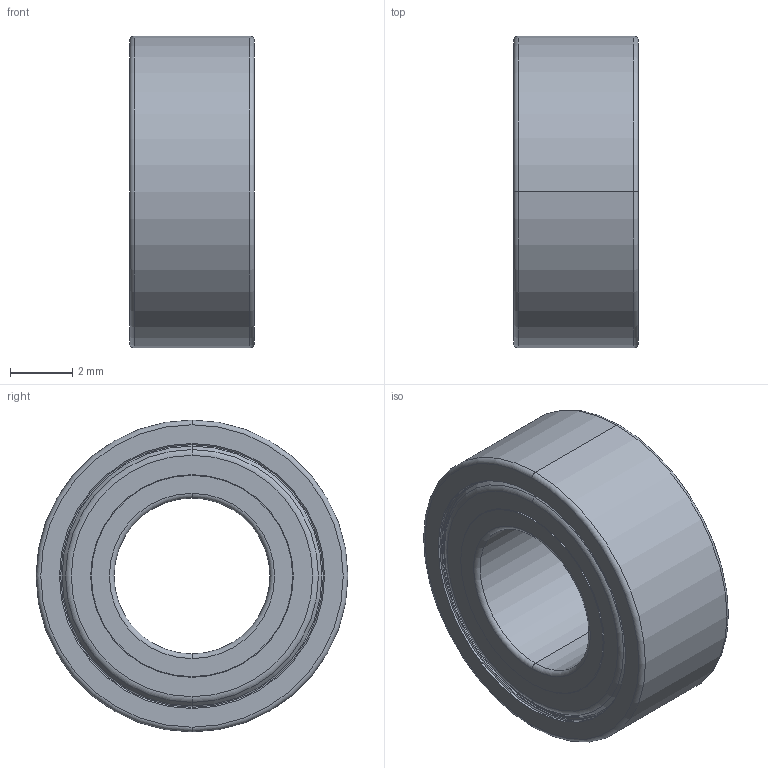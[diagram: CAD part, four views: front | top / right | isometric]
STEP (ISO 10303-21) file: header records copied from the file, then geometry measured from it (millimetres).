
FILE_DESCRIPTION((''),'2;1');
FILE_NAME('MR105ZZ_ASM_SW0001','2025-12-19T16:53:57',('qinghui.yi'),(''),'CREO PARAMETRIC BY PTC INC, 2019164','CREO PARAMETRIC BY PTC INC, 2019164','');
FILE_SCHEMA(('CONFIG_CONTROL_DESIGN','SHAPE_APPEARANCE_LAYERS_GROUPS'));
Length unit declared in the file: millimetre
Products named in the file (1): MR105ZZ_ASM_SW0001
Bounding box: 4 x 10 x 10 mm (x, y, z)
Volume: 148 mm3; surface area: 559.8 mm2
Topology: 2 solids, 2 shells, 88 faces, 180 edges, 106 vertices
Faces by surface type: torus 34, cylinder 24, cone 16, plane 14
Entity records: 2595 total; most frequent: DIRECTION 496, CARTESIAN_POINT 374, ORIENTED_EDGE 360, AXIS2_PLACEMENT_3D 228, COLOUR_RGB 196, EDGE_CURVE 180, CIRCLE 140, VERTEX_POINT 106
